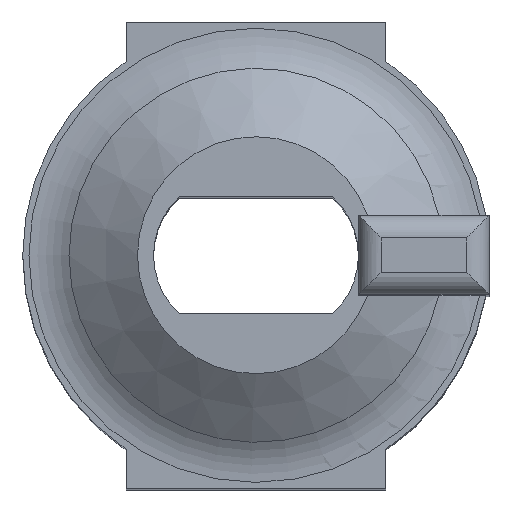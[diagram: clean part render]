
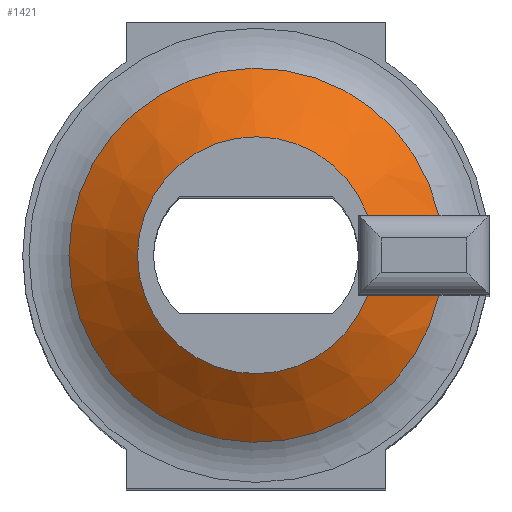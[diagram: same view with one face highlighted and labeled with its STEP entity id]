
A CAD part, top view. The second image highlights one B-rep face of the part: STEP entity #1421.
In plain terms, the highlighted conical face has half-angle 54.102 degrees and reference radius 9.003 mm.
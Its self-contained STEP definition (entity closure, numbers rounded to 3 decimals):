
#63 = CARTESIAN_POINT ( 'NONE',  ( 11.657, 12., 19.034 ) ) ;
#103 = CARTESIAN_POINT ( 'NONE',  ( 13.734, 12., 17.57 ) ) ;
#158 = CARTESIAN_POINT ( 'NONE',  ( 11.657, 8.5, 19.034 ) ) ;
#261 = DIRECTION ( 'NONE',  ( 0., 0., 1. ) ) ;
#447 = AXIS2_PLACEMENT_3D ( 'NONE', #1869, #261, #820 ) ;
#482 = ORIENTED_EDGE ( 'NONE', *, *, #1617, .F. ) ;
#739 = EDGE_CURVE ( 'NONE', #1866, #3073, #1384, .T. ) ;
#819 = CARTESIAN_POINT ( 'NONE',  ( 13.734, 12., 17.57 ) ) ;
#820 = DIRECTION ( 'NONE',  ( 1., 0., 0. ) ) ;
#821 = DIRECTION ( 'NONE',  ( -1., 0., 0. ) ) ;
#887 = VERTEX_POINT ( 'NONE', #1300 ) ;
#891 = ORIENTED_EDGE ( 'NONE', *, *, #739, .F. ) ;
#992 = CARTESIAN_POINT ( 'NONE',  ( 10.607, 8.5, 19.75 ) ) ;
#1017 = CARTESIAN_POINT ( 'NONE',  ( 12.696, 8.5, 18.303 ) ) ;
#1097 = EDGE_LOOP ( 'NONE', ( #482, #1335, #891, #2805 ) ) ;
#1247 = AXIS2_PLACEMENT_3D ( 'NONE', #2447, #2151, #821 ) ;
#1300 = CARTESIAN_POINT ( 'NONE',  ( 10.607, 12., 19.75 ) ) ;
#1312 = FACE_OUTER_BOUND ( 'NONE', #1097, .T. ) ;
#1319 = DIRECTION ( 'NONE',  ( 0., 0., -1. ) ) ;
#1335 = ORIENTED_EDGE ( 'NONE', *, *, #2903, .T. ) ;
#1384 = B_SPLINE_CURVE_WITH_KNOTS ( 'NONE', 3,
 ( #992, #158, #1017, #3363 ),
 .UNSPECIFIED., .F., .F.,
 ( 4, 4 ),
 ( 0.002, 0.006 ),
 .UNSPECIFIED. ) ;
#1414 = CARTESIAN_POINT ( 'NONE',  ( 10.607, 12., 19.75 ) ) ;
#1421 = ADVANCED_FACE ( 'NONE', ( #1312 ), #2310, .T. ) ;
#1588 = CARTESIAN_POINT ( 'NONE',  ( 5.706, 10.25, 17. ) ) ;
#1617 = EDGE_CURVE ( 'NONE', #3330, #887, #3130, .T. ) ;
#1866 = VERTEX_POINT ( 'NONE', #2832 ) ;
#1869 = CARTESIAN_POINT ( 'NONE',  ( 5.706, 10.25, 19.75 ) ) ;
#2053 = EDGE_CURVE ( 'NONE', #887, #1866, #2169, .T. ) ;
#2126 = CIRCLE ( 'NONE', #1247, 8.216 ) ;
#2151 = DIRECTION ( 'NONE',  ( 0., 0., 1. ) ) ;
#2169 = CIRCLE ( 'NONE', #447, 5.204 ) ;
#2172 = AXIS2_PLACEMENT_3D ( 'NONE', #1588, #1319, #2192 ) ;
#2192 = DIRECTION ( 'NONE',  ( 1., 0., 0. ) ) ;
#2241 = CARTESIAN_POINT ( 'NONE',  ( 12.696, 12., 18.303 ) ) ;
#2310 = CONICAL_SURFACE ( 'NONE', #2172, 9.003, 0.944 ) ;
#2447 = CARTESIAN_POINT ( 'NONE',  ( 5.706, 10.25, 17.57 ) ) ;
#2805 = ORIENTED_EDGE ( 'NONE', *, *, #2053, .F. ) ;
#2832 = CARTESIAN_POINT ( 'NONE',  ( 10.607, 8.5, 19.75 ) ) ;
#2903 = EDGE_CURVE ( 'NONE', #3330, #3073, #2126, .T. ) ;
#3073 = VERTEX_POINT ( 'NONE', #3307 ) ;
#3130 = B_SPLINE_CURVE_WITH_KNOTS ( 'NONE', 3,
 ( #103, #2241, #63, #1414 ),
 .UNSPECIFIED., .F., .F.,
 ( 4, 4 ),
 ( 0.003, 0.006 ),
 .UNSPECIFIED. ) ;
#3307 = CARTESIAN_POINT ( 'NONE',  ( 13.734, 8.5, 17.57 ) ) ;
#3330 = VERTEX_POINT ( 'NONE', #819 ) ;
#3363 = CARTESIAN_POINT ( 'NONE',  ( 13.734, 8.5, 17.57 ) ) ;
